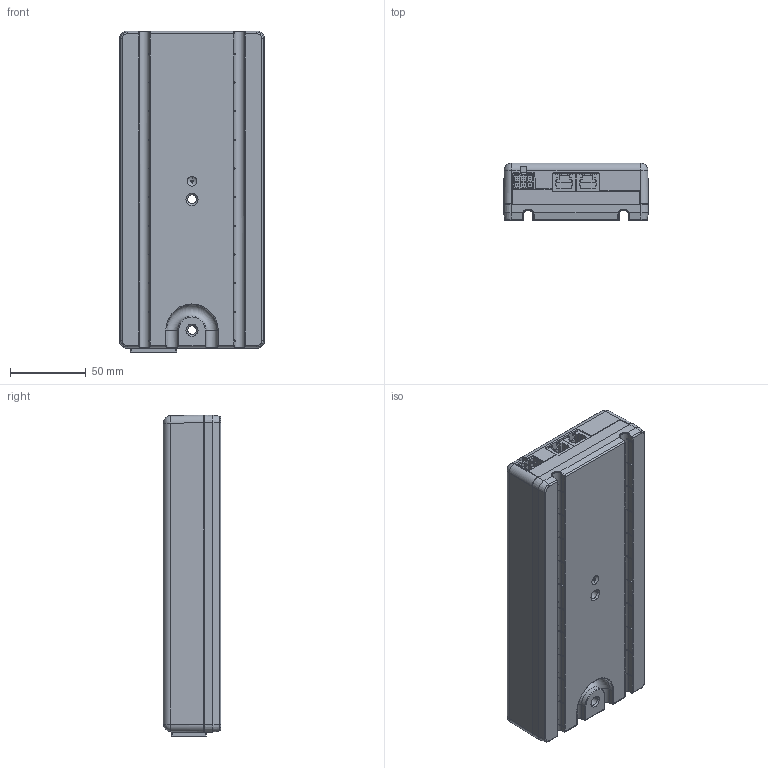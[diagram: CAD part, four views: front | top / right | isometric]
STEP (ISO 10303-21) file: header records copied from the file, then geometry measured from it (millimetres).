
FILE_DESCRIPTION((''),'2;1');
FILE_NAME('CBD6S','2020-02-20T14:07:35',('bs'),(''),'CREO PARAMETRIC BY PTC INC, 2019344','CREO PARAMETRIC BY PTC INC, 2019344','');
FILE_SCHEMA(('AUTOMOTIVE_DESIGN { 1 0 10303 214 1 1 1 1 }'));
Products named in the file (1): CBD6S
Bounding box: 96 x 38 x 213.13 mm (x, y, z)
Volume: 715456.5 mm3; surface area: 94140.3 mm2
Topology: 1 solids, 2 shells, 1614 faces, 4308 edges, 2759 vertices
Faces by surface type: plane 1040, cylinder 346, bspline 86, extrusion 77, cone 28, torus 25, sphere 12
Entity records: 65251 total; most frequent: CARTESIAN_POINT 16988, ORIENTED_EDGE 8592, DIRECTION 7154, EDGE_CURVE 4296, VECTOR 3246, LINE 3169, VERTEX_POINT 2759, AXIS2_PLACEMENT_3D 1954
